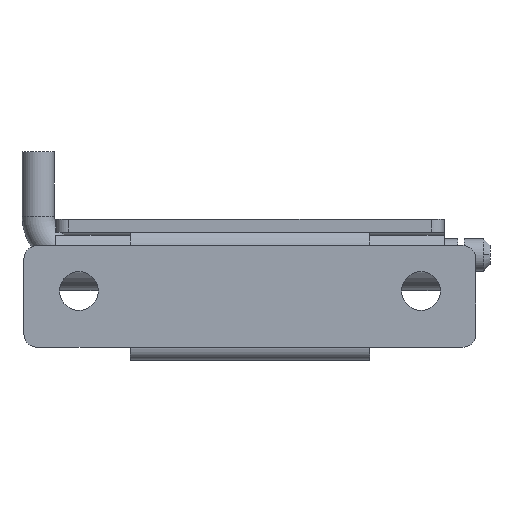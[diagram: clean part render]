
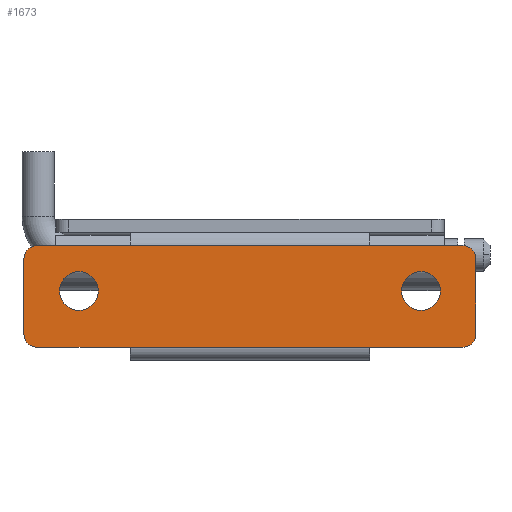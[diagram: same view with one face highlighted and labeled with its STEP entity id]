
A CAD part, top view. The second image highlights one B-rep face of the part: STEP entity #1673.
In plain terms, the highlighted planar face has unit normal (0, 0, 1).
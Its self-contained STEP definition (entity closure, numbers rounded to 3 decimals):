
#16 = DIRECTION ( 'NONE',  ( 0., 0., 1. ) ) ;
#26 = DIRECTION ( 'NONE',  ( 1., 0., 0. ) ) ;
#59 = AXIS2_PLACEMENT_3D ( 'NONE', #2002, #1176, #1368 ) ;
#93 = CIRCLE ( 'NONE', #59, 3. ) ;
#99 = VERTEX_POINT ( 'NONE', #1345 ) ;
#117 = EDGE_CURVE ( 'NONE', #1897, #1083, #93, .T. ) ;
#122 = CARTESIAN_POINT ( 'NONE',  ( 33., -0.6, 17.15 ) ) ;
#130 = VECTOR ( 'NONE', #1674, 1000. ) ;
#132 = VECTOR ( 'NONE', #552, 1000. ) ;
#141 = CARTESIAN_POINT ( 'NONE',  ( 18.55, -14.3, 17.15 ) ) ;
#147 = CARTESIAN_POINT ( 'NONE',  ( -33., 1.4, 17.15 ) ) ;
#183 = CARTESIAN_POINT ( 'NONE',  ( -29.5, -5.6, 17.15 ) ) ;
#184 = EDGE_CURVE ( 'NONE', #1212, #2155, #992, .T. ) ;
#189 = VERTEX_POINT ( 'NONE', #351 ) ;
#258 = VERTEX_POINT ( 'NONE', #1481 ) ;
#260 = CARTESIAN_POINT ( 'NONE',  ( -33., -12.3, 17.15 ) ) ;
#278 = AXIS2_PLACEMENT_3D ( 'NONE', #1844, #1707, #1187 ) ;
#286 = EDGE_CURVE ( 'NONE', #1727, #802, #1309, .T. ) ;
#303 = EDGE_CURVE ( 'NONE', #802, #661, #920, .T. ) ;
#320 = ORIENTED_EDGE ( 'NONE', *, *, #303, .T. ) ;
#328 = CARTESIAN_POINT ( 'NONE',  ( -33., -14.3, 17.15 ) ) ;
#351 = CARTESIAN_POINT ( 'NONE',  ( 35., -0.6, 17.15 ) ) ;
#355 = ORIENTED_EDGE ( 'NONE', *, *, #1055, .T. ) ;
#359 = FACE_BOUND ( 'NONE', #798, .T. ) ;
#383 = ORIENTED_EDGE ( 'NONE', *, *, #883, .F. ) ;
#399 = DIRECTION ( 'NONE',  ( 1., 0., 0. ) ) ;
#413 = CARTESIAN_POINT ( 'NONE',  ( 26.5, -5.6, 17.15 ) ) ;
#446 = EDGE_LOOP ( 'NONE', ( #1622, #1612, #1473, #1638, #1238, #355, #1323, #1180, #1796, #320 ) ) ;
#458 = AXIS2_PLACEMENT_3D ( 'NONE', #489, #16, #2025 ) ;
#489 = CARTESIAN_POINT ( 'NONE',  ( 33., -12.3, 17.15 ) ) ;
#502 = DIRECTION ( 'NONE',  ( 1., 0., 0. ) ) ;
#531 = FACE_BOUND ( 'NONE', #900, .T. ) ;
#536 = EDGE_CURVE ( 'NONE', #1029, #661, #1457, .T. ) ;
#552 = DIRECTION ( 'NONE',  ( 1., 0., 0. ) ) ;
#597 = VECTOR ( 'NONE', #1637, 1000. ) ;
#606 = DIRECTION ( 'NONE',  ( 1., 0., 0. ) ) ;
#637 = DIRECTION ( 'NONE',  ( 1., 0., 0. ) ) ;
#648 = EDGE_CURVE ( 'NONE', #189, #2057, #1167, .T. ) ;
#661 = VERTEX_POINT ( 'NONE', #141 ) ;
#667 = CARTESIAN_POINT ( 'NONE',  ( -18.55, -14.3, 17.15 ) ) ;
#683 = DIRECTION ( 'NONE',  ( 0., 0., 1. ) ) ;
#710 = AXIS2_PLACEMENT_3D ( 'NONE', #413, #1570, #399 ) ;
#740 = LINE ( 'NONE', #1748, #132 ) ;
#754 = CARTESIAN_POINT ( 'NONE',  ( -35., -14.3, 17.15 ) ) ;
#760 = CARTESIAN_POINT ( 'NONE',  ( 35., -12.3, 17.15 ) ) ;
#768 = CARTESIAN_POINT ( 'NONE',  ( -33., -0.6, 17.15 ) ) ;
#798 = EDGE_LOOP ( 'NONE', ( #1891, #1234 ) ) ;
#802 = VERTEX_POINT ( 'NONE', #667 ) ;
#880 = CIRCLE ( 'NONE', #1451, 2. ) ;
#883 = EDGE_CURVE ( 'NONE', #258, #1822, #1492, .T. ) ;
#900 = EDGE_LOOP ( 'NONE', ( #383, #1660 ) ) ;
#911 = VECTOR ( 'NONE', #2135, 1000. ) ;
#920 = LINE ( 'NONE', #1778, #1092 ) ;
#931 = CARTESIAN_POINT ( 'NONE',  ( -35., -14.3, 17.15 ) ) ;
#948 = CIRCLE ( 'NONE', #1556, 2. ) ;
#959 = DIRECTION ( 'NONE',  ( 1., 0., 0. ) ) ;
#973 = DIRECTION ( 'NONE',  ( 0., 0., 1. ) ) ;
#992 = LINE ( 'NONE', #1858, #130 ) ;
#1029 = VERTEX_POINT ( 'NONE', #1144 ) ;
#1030 = DIRECTION ( 'NONE',  ( 0., 0., 1. ) ) ;
#1055 = EDGE_CURVE ( 'NONE', #2159, #1212, #2174, .T. ) ;
#1077 = CARTESIAN_POINT ( 'NONE',  ( -23.5, -5.6, 17.15 ) ) ;
#1083 = VERTEX_POINT ( 'NONE', #183 ) ;
#1090 = CARTESIAN_POINT ( 'NONE',  ( -35., -0.6, 17.15 ) ) ;
#1091 = CIRCLE ( 'NONE', #1523, 3. ) ;
#1092 = VECTOR ( 'NONE', #637, 1000. ) ;
#1144 = CARTESIAN_POINT ( 'NONE',  ( 33., -14.3, 17.15 ) ) ;
#1167 = LINE ( 'NONE', #1307, #911 ) ;
#1176 = DIRECTION ( 'NONE',  ( 0., 0., 1. ) ) ;
#1180 = ORIENTED_EDGE ( 'NONE', *, *, #1505, .T. ) ;
#1187 = DIRECTION ( 'NONE',  ( 1., 0., 0. ) ) ;
#1212 = VERTEX_POINT ( 'NONE', #1090 ) ;
#1234 = ORIENTED_EDGE ( 'NONE', *, *, #117, .F. ) ;
#1238 = ORIENTED_EDGE ( 'NONE', *, *, #1767, .F. ) ;
#1277 = CIRCLE ( 'NONE', #458, 2. ) ;
#1307 = CARTESIAN_POINT ( 'NONE',  ( 35., -14.3, 17.15 ) ) ;
#1309 = LINE ( 'NONE', #931, #597 ) ;
#1323 = ORIENTED_EDGE ( 'NONE', *, *, #184, .T. ) ;
#1345 = CARTESIAN_POINT ( 'NONE',  ( 33., 1.4, 17.15 ) ) ;
#1368 = DIRECTION ( 'NONE',  ( 1., 0., 0. ) ) ;
#1396 = EDGE_CURVE ( 'NONE', #1822, #258, #1091, .T. ) ;
#1414 = AXIS2_PLACEMENT_3D ( 'NONE', #768, #1453, #606 ) ;
#1443 = DIRECTION ( 'NONE',  ( -1., 0., 0. ) ) ;
#1451 = AXIS2_PLACEMENT_3D ( 'NONE', #122, #1664, #959 ) ;
#1453 = DIRECTION ( 'NONE',  ( 0., 0., 1. ) ) ;
#1457 = LINE ( 'NONE', #754, #1489 ) ;
#1473 = ORIENTED_EDGE ( 'NONE', *, *, #648, .F. ) ;
#1481 = CARTESIAN_POINT ( 'NONE',  ( 23.5, -5.6, 17.15 ) ) ;
#1489 = VECTOR ( 'NONE', #1443, 1000. ) ;
#1492 = CIRCLE ( 'NONE', #710, 3. ) ;
#1505 = EDGE_CURVE ( 'NONE', #2155, #1727, #948, .T. ) ;
#1523 = AXIS2_PLACEMENT_3D ( 'NONE', #1544, #1030, #502 ) ;
#1544 = CARTESIAN_POINT ( 'NONE',  ( 26.5, -5.6, 17.15 ) ) ;
#1556 = AXIS2_PLACEMENT_3D ( 'NONE', #260, #973, #2127 ) ;
#1558 = CIRCLE ( 'NONE', #278, 3. ) ;
#1570 = DIRECTION ( 'NONE',  ( 0., 0., 1. ) ) ;
#1612 = ORIENTED_EDGE ( 'NONE', *, *, #1689, .T. ) ;
#1622 = ORIENTED_EDGE ( 'NONE', *, *, #536, .F. ) ;
#1637 = DIRECTION ( 'NONE',  ( 1., 0., 0. ) ) ;
#1638 = ORIENTED_EDGE ( 'NONE', *, *, #1956, .T. ) ;
#1660 = ORIENTED_EDGE ( 'NONE', *, *, #1396, .F. ) ;
#1664 = DIRECTION ( 'NONE',  ( 0., 0., 1. ) ) ;
#1673 = ADVANCED_FACE ( 'NONE', ( #359, #531, #1709 ), #2019, .T. ) ;
#1674 = DIRECTION ( 'NONE',  ( 0., -1., 0. ) ) ;
#1689 = EDGE_CURVE ( 'NONE', #1029, #2057, #1277, .T. ) ;
#1699 = AXIS2_PLACEMENT_3D ( 'NONE', #1856, #683, #26 ) ;
#1707 = DIRECTION ( 'NONE',  ( 0., 0., 1. ) ) ;
#1709 = FACE_OUTER_BOUND ( 'NONE', #446, .T. ) ;
#1727 = VERTEX_POINT ( 'NONE', #328 ) ;
#1748 = CARTESIAN_POINT ( 'NONE',  ( -35., 1.4, 17.15 ) ) ;
#1767 = EDGE_CURVE ( 'NONE', #2159, #99, #740, .T. ) ;
#1778 = CARTESIAN_POINT ( 'NONE',  ( -35., -14.3, 17.15 ) ) ;
#1796 = ORIENTED_EDGE ( 'NONE', *, *, #286, .T. ) ;
#1822 = VERTEX_POINT ( 'NONE', #2070 ) ;
#1833 = CARTESIAN_POINT ( 'NONE',  ( -35., -12.3, 17.15 ) ) ;
#1844 = CARTESIAN_POINT ( 'NONE',  ( -26.5, -5.6, 17.15 ) ) ;
#1856 = CARTESIAN_POINT ( 'NONE',  ( -35., -14.3, 17.15 ) ) ;
#1858 = CARTESIAN_POINT ( 'NONE',  ( -35., -14.3, 17.15 ) ) ;
#1891 = ORIENTED_EDGE ( 'NONE', *, *, #2168, .F. ) ;
#1897 = VERTEX_POINT ( 'NONE', #1077 ) ;
#1956 = EDGE_CURVE ( 'NONE', #189, #99, #880, .T. ) ;
#2002 = CARTESIAN_POINT ( 'NONE',  ( -26.5, -5.6, 17.15 ) ) ;
#2019 = PLANE ( 'NONE',  #1699 ) ;
#2025 = DIRECTION ( 'NONE',  ( 1., 0., 0. ) ) ;
#2057 = VERTEX_POINT ( 'NONE', #760 ) ;
#2070 = CARTESIAN_POINT ( 'NONE',  ( 29.5, -5.6, 17.15 ) ) ;
#2127 = DIRECTION ( 'NONE',  ( 1., 0., 0. ) ) ;
#2135 = DIRECTION ( 'NONE',  ( 0., -1., 0. ) ) ;
#2155 = VERTEX_POINT ( 'NONE', #1833 ) ;
#2159 = VERTEX_POINT ( 'NONE', #147 ) ;
#2168 = EDGE_CURVE ( 'NONE', #1083, #1897, #1558, .T. ) ;
#2174 = CIRCLE ( 'NONE', #1414, 2. ) ;
